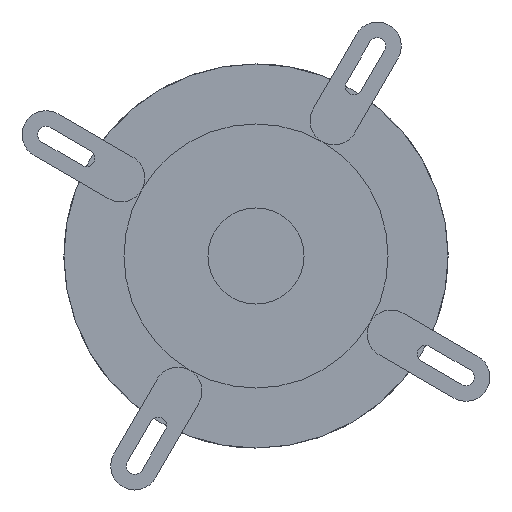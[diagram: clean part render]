
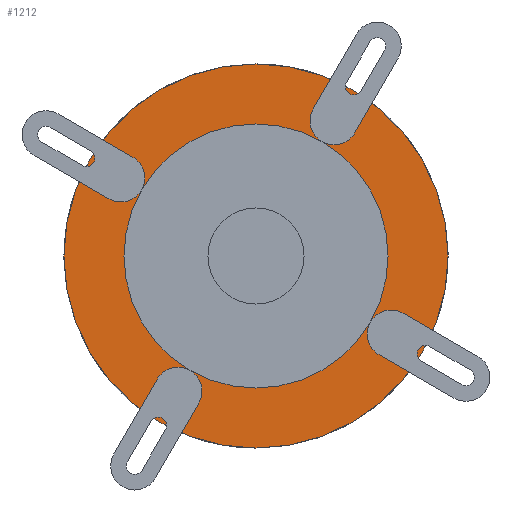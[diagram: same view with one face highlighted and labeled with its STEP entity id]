
A CAD part, front view. The second image highlights one B-rep face of the part: STEP entity #1212.
In plain terms, the highlighted planar face has unit normal (0, -1, 0).
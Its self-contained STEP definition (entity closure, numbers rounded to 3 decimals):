
#391=FACE_BOUND('',#2214,.T.);
#392=FACE_BOUND('',#2215,.T.);
#393=FACE_BOUND('',#2216,.T.);
#394=FACE_BOUND('',#2217,.T.);
#395=FACE_BOUND('',#2218,.T.);
#396=FACE_BOUND('',#2219,.T.);
#629=PLANE('',#9148);
#1212=ADVANCED_FACE('NONE',(#391,#392,#393,#394,#395,#396),#629,.T.);
#2214=EDGE_LOOP('',(#3276,#3277));
#2215=EDGE_LOOP('',(#3278,#3279));
#2216=EDGE_LOOP('',(#3280,#3281));
#2217=EDGE_LOOP('',(#3282,#3283));
#2218=EDGE_LOOP('',(#3284,#3285));
#2219=EDGE_LOOP('',(#3286,#3287));
#3276=ORIENTED_EDGE('',*,*,#6139,.T.);
#3277=ORIENTED_EDGE('',*,*,#6042,.T.);
#3278=ORIENTED_EDGE('',*,*,#6140,.T.);
#3279=ORIENTED_EDGE('',*,*,#6046,.T.);
#3280=ORIENTED_EDGE('',*,*,#6122,.F.);
#3281=ORIENTED_EDGE('',*,*,#6020,.F.);
#3282=ORIENTED_EDGE('',*,*,#6141,.T.);
#3283=ORIENTED_EDGE('',*,*,#6038,.T.);
#3284=ORIENTED_EDGE('',*,*,#6142,.T.);
#3285=ORIENTED_EDGE('',*,*,#6050,.T.);
#3286=ORIENTED_EDGE('',*,*,#6143,.T.);
#3287=ORIENTED_EDGE('',*,*,#6054,.T.);
#5184=VERTEX_POINT('',#12949);
#5185=VERTEX_POINT('',#12951);
#5202=VERTEX_POINT('',#12989);
#5203=VERTEX_POINT('',#12990);
#5206=VERTEX_POINT('',#12998);
#5207=VERTEX_POINT('',#12999);
#5210=VERTEX_POINT('',#13007);
#5211=VERTEX_POINT('',#13008);
#5214=VERTEX_POINT('',#13016);
#5215=VERTEX_POINT('',#13017);
#5218=VERTEX_POINT('',#13025);
#5219=VERTEX_POINT('',#13026);
#6020=EDGE_CURVE('NONE',#5184,#5185,#7064,.T.);
#6038=EDGE_CURVE('NONE',#5202,#5203,#7073,.T.);
#6042=EDGE_CURVE('NONE',#5206,#5207,#7075,.T.);
#6046=EDGE_CURVE('NONE',#5210,#5211,#7077,.T.);
#6050=EDGE_CURVE('NONE',#5214,#5215,#7079,.T.);
#6054=EDGE_CURVE('NONE',#5218,#5219,#7081,.T.);
#6122=EDGE_CURVE('NONE',#5185,#5184,#7111,.T.);
#6139=EDGE_CURVE('NONE',#5207,#5206,#7118,.T.);
#6140=EDGE_CURVE('NONE',#5211,#5210,#7119,.T.);
#6141=EDGE_CURVE('NONE',#5203,#5202,#7120,.T.);
#6142=EDGE_CURVE('NONE',#5215,#5214,#7121,.T.);
#6143=EDGE_CURVE('NONE',#5219,#5218,#7122,.T.);
#7064=CIRCLE('',#9050,80.);
#7073=CIRCLE('',#9062,4.25);
#7075=CIRCLE('',#9065,4.25);
#7077=CIRCLE('',#9068,4.25);
#7079=CIRCLE('',#9071,4.25);
#7081=CIRCLE('',#9074,55.);
#7111=CIRCLE('',#9123,80.);
#7118=CIRCLE('',#9143,4.25);
#7119=CIRCLE('',#9144,4.25);
#7120=CIRCLE('',#9145,4.25);
#7121=CIRCLE('',#9146,4.25);
#7122=CIRCLE('',#9147,55.);
#9050=AXIS2_PLACEMENT_3D('',#12950,#10270,#10271);
#9062=AXIS2_PLACEMENT_3D('',#12988,#10303,#10304);
#9065=AXIS2_PLACEMENT_3D('',#12997,#10311,#10312);
#9068=AXIS2_PLACEMENT_3D('',#13006,#10319,#10320);
#9071=AXIS2_PLACEMENT_3D('',#13015,#10327,#10328);
#9074=AXIS2_PLACEMENT_3D('',#13024,#10335,#10336);
#9123=AXIS2_PLACEMENT_3D('',#13159,#10471,#10472);
#9143=AXIS2_PLACEMENT_3D('',#13193,#10521,#10522);
#9144=AXIS2_PLACEMENT_3D('',#13194,#10523,#10524);
#9145=AXIS2_PLACEMENT_3D('',#13195,#10525,#10526);
#9146=AXIS2_PLACEMENT_3D('',#13196,#10527,#10528);
#9147=AXIS2_PLACEMENT_3D('',#13197,#10529,#10530);
#9148=AXIS2_PLACEMENT_3D('',#13198,#10531,#10532);
#10270=DIRECTION('',(0.,1.,0.));
#10271=DIRECTION('',(0.,0.,-1.));
#10303=DIRECTION('',(0.,1.,0.));
#10304=DIRECTION('',(0.,0.,1.));
#10311=DIRECTION('',(0.,1.,0.));
#10312=DIRECTION('',(0.,0.,1.));
#10319=DIRECTION('',(0.,1.,0.));
#10320=DIRECTION('',(0.,0.,1.));
#10327=DIRECTION('',(0.,1.,0.));
#10328=DIRECTION('',(0.,0.,1.));
#10335=DIRECTION('',(0.,1.,0.));
#10336=DIRECTION('',(0.,0.,1.));
#10471=DIRECTION('',(0.,1.,0.));
#10472=DIRECTION('',(0.,0.,-1.));
#10521=DIRECTION('',(0.,1.,0.));
#10522=DIRECTION('',(0.,0.,1.));
#10523=DIRECTION('',(0.,1.,0.));
#10524=DIRECTION('',(0.,0.,1.));
#10525=DIRECTION('',(0.,1.,0.));
#10526=DIRECTION('',(0.,0.,1.));
#10527=DIRECTION('',(0.,1.,0.));
#10528=DIRECTION('',(0.,0.,1.));
#10529=DIRECTION('',(0.,1.,0.));
#10530=DIRECTION('',(0.,0.,1.));
#10531=DIRECTION('',(0.,-1.,0.));
#10532=DIRECTION('',(0.,0.,-1.));
#12949=CARTESIAN_POINT('',(-50.404,-53.913,80.));
#12950=CARTESIAN_POINT('',(-50.404,-53.913,0.));
#12951=CARTESIAN_POINT('',(-50.404,-53.913,-80.));
#12988=CARTESIAN_POINT('',(-17.904,-53.913,56.292));
#12989=CARTESIAN_POINT('',(-17.904,-53.913,52.042));
#12990=CARTESIAN_POINT('',(-17.904,-53.913,60.542));
#12997=CARTESIAN_POINT('',(-106.695,-53.913,32.5));
#12998=CARTESIAN_POINT('',(-106.695,-53.913,28.25));
#12999=CARTESIAN_POINT('',(-106.695,-53.913,36.75));
#13006=CARTESIAN_POINT('',(5.888,-53.913,-32.5));
#13007=CARTESIAN_POINT('',(5.888,-53.913,-36.75));
#13008=CARTESIAN_POINT('',(5.888,-53.913,-28.25));
#13015=CARTESIAN_POINT('',(-82.904,-53.913,-56.292));
#13016=CARTESIAN_POINT('',(-82.904,-53.913,-60.542));
#13017=CARTESIAN_POINT('',(-82.904,-53.913,-52.042));
#13024=CARTESIAN_POINT('',(-50.404,-53.913,0.));
#13025=CARTESIAN_POINT('',(-50.404,-53.913,-55.));
#13026=CARTESIAN_POINT('',(-50.404,-53.913,55.));
#13159=CARTESIAN_POINT('',(-50.404,-53.913,0.));
#13193=CARTESIAN_POINT('',(-106.695,-53.913,32.5));
#13194=CARTESIAN_POINT('',(5.888,-53.913,-32.5));
#13195=CARTESIAN_POINT('',(-17.904,-53.913,56.292));
#13196=CARTESIAN_POINT('',(-82.904,-53.913,-56.292));
#13197=CARTESIAN_POINT('',(-50.404,-53.913,0.));
#13198=CARTESIAN_POINT('',(-50.404,-53.913,0.));
